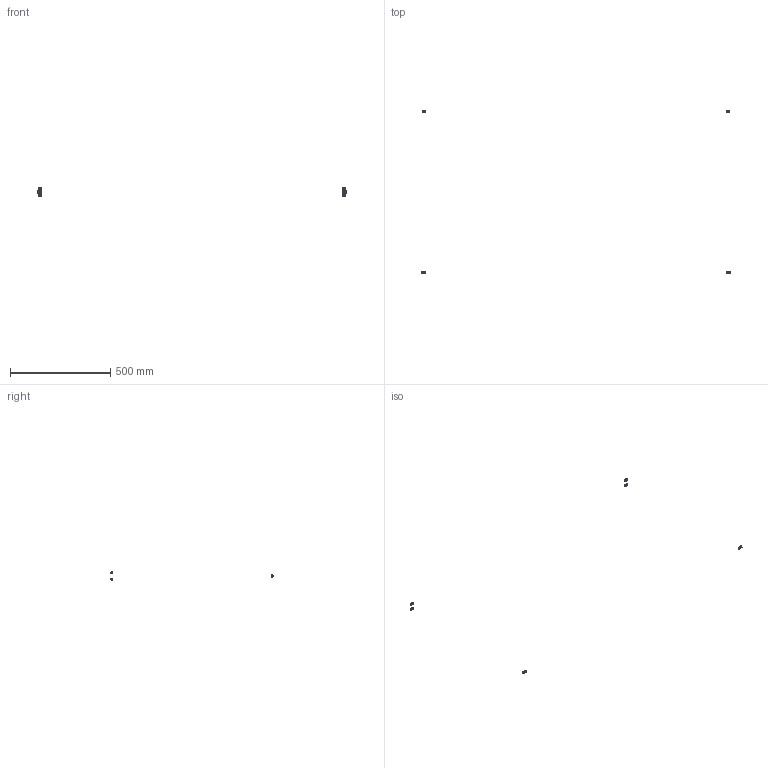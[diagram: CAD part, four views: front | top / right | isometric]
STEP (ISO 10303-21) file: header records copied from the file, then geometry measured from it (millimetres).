
FILE_DESCRIPTION(/* description */ (''),/* implementation_level */ '2;1');
FILE_NAME(/* name */ 'Y-56A4~1',/* time_stamp */ '2014-02-14T19:42:58+01:00',/* author */ (''),/* organization */ (''),/* preprocessor_version */ 'ST-DEVELOPER v14',/* originating_system */ '',/* authorisation */ '');
FILE_SCHEMA (('AUTOMOTIVE_DESIGN'));
Length unit declared in the file: millimetre
Products named in the file (3): Document; washer DIN125, form A, M5; washer DIN125-like, form A, M5
Assembly tree (24 placements, depth 2):
  Document
    washer DIN125, form A, M5  x18
    washer DIN125-like, form A, M5  x6
Bounding box: 1536 x 807 x 41.99 mm (x, y, z)
Volume: 2039.4 mm3; surface area: 7744.7 mm2
Topology: 36 solids, 108 shells, 288 faces, 672 edges, 528 vertices
Faces by surface type: bspline 192, plane 96
Entity records: 10610 total; most frequent: CARTESIAN_POINT 5645, ORIENTED_EDGE 596, PCURVE 596, DEFINITIONAL_REPRESENTATION 596, B_SPLINE_CURVE_WITH_KNOTS 472, SURFACE_CURVE 368, EDGE_CURVE 368, VERTEX_POINT 292
